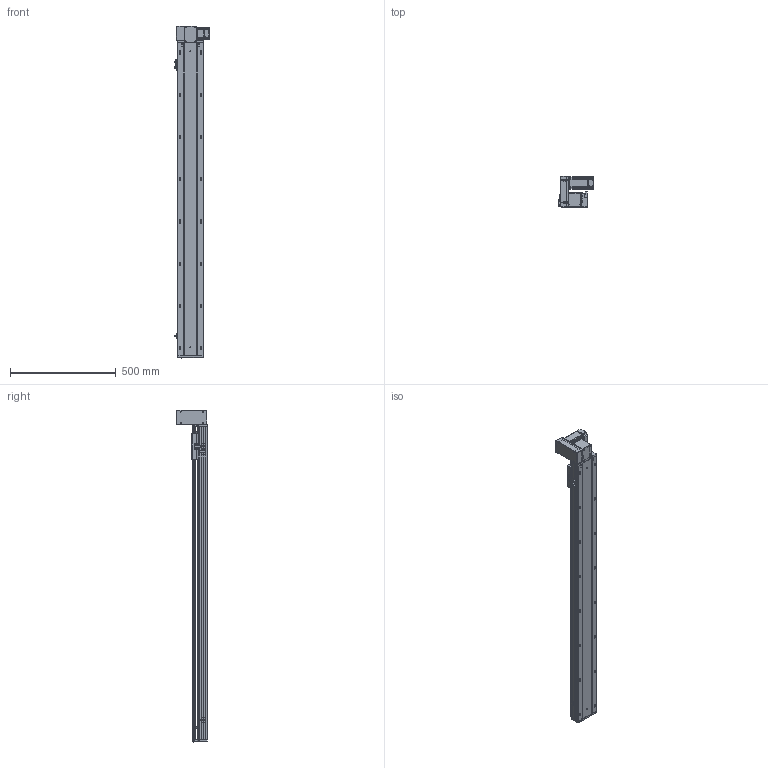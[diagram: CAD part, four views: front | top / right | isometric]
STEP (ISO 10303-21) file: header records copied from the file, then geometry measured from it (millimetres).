
FILE_DESCRIPTION (( 'STEP AP203' ), '1' );
FILE_NAME ('RY120-T-300-UL.SLDASM_1250.step', '2021-03-01T05:36:37', ( '盈信电脑' ), ( '东莞市道滘镇水果街19号' ), 'SwSTEP 2.0', 'SolidWorks 2012', '' );
FILE_SCHEMA (( 'CONFIG_CONTROL_DESIGN' ));
Products named in the file (18): RY120-T-300-UL.SLDASM_1250; RY120-T翋肮祭謫裔啣; RY120-T萇儂欶; RY120-T蹟翐M4; RY120-T主同步轮轴承压盖; 侂狟400W侜督萇儂; 15; 滅袉蝶18-10; RY120-T肮祭湍揤踡輸1; RY120-T肮祭湍揤踡輸2; RY120-T萇儂假蚾啣; RY120-T翋肮祭盓傅釱; RY120綴裔啣; RY120外置感应片(140共用）; 覜茼ん672; RY120肮祭湍臏賑輸; RY120-T-300-UL倰第奻裔啣_1250; RY120-T-300-UL倰第菁釱_1250
Assembly tree (23 placements, depth 3):
  RY120-T-300-UL.SLDASM_1250
    RY120-T-300-UL倰第菁釱_1250
    RY120-T-300-UL倰第奻裔啣_1250
    RY120肮祭湍臏賑輸
    RY120綴裔啣
    覜茼ん672  x3
    RY120外置感应片(140共用）
    RY120-T肮祭湍揤踡輸1
    RY120-T肮祭湍揤踡輸2
    RY120-T翋肮祭盓傅釱
    RY120-T萇儂假蚾啣
    侂狟400W侜督萇儂
      15
    RY120-T主同步轮轴承压盖
    滅袉蝶18-10  x2
    RY120-T萇儂欶
    RY120-T蹟翐M4  x4
    RY120-T翋肮祭謫裔啣
Bounding box: 164.2 x 146 x 1571 mm (x, y, z)
Volume: 4164773.1 mm3; surface area: 1567285.6 mm2
Topology: 23 solids, 23 shells, 2894 faces, 7896 edges, 5054 vertices
Faces by surface type: plane 1426, cylinder 1110, cone 269, bspline 89
Entity records: 92384 total; most frequent: CARTESIAN_POINT 23590, ORIENTED_EDGE 14184, DIRECTION 13422, EDGE_CURVE 7092, VERTEX_POINT 4641, AXIS2_PLACEMENT_3D 4513, LINE 4396, VECTOR 4396
